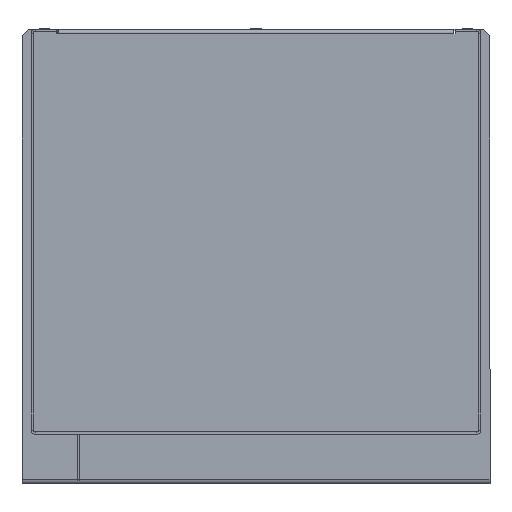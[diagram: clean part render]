
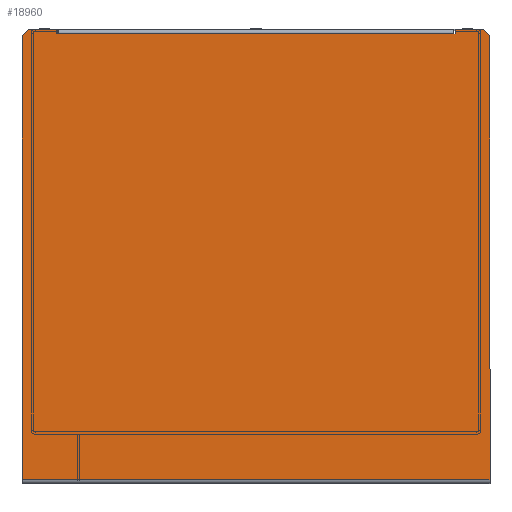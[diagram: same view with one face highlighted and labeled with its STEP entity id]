
A CAD part, front view. The second image highlights one B-rep face of the part: STEP entity #18960.
In plain terms, the highlighted planar face has unit normal (0, -1, 0).
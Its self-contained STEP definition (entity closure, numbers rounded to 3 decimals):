
#17675=CARTESIAN_POINT('',(134.227,-1076.247,-251.099));
#17676=VERTEX_POINT('',#17675);
#17846=CARTESIAN_POINT('',(654.227,-1076.247,-251.099));
#17847=VERTEX_POINT('',#17846);
#18066=CARTESIAN_POINT('',(134.227,-1076.247,-251.099));
#18067=DIRECTION('',(1.0,0.0,0.0));
#18068=VECTOR('',#18067,520.0);
#18069=LINE('',#18066,#18068);
#18070=EDGE_CURVE('',#17676,#17847,#18069,.T.);
#18119=CARTESIAN_POINT('',(614.227,-1076.247,244.901));
#18120=VERTEX_POINT('',#18119);
#18272=CARTESIAN_POINT('',(174.227,-1076.247,244.901));
#18273=VERTEX_POINT('',#18272);
#18398=CARTESIAN_POINT('',(614.227,-1076.247,244.901));
#18399=DIRECTION('',(-1.0,0.0,0.0));
#18400=VECTOR('',#18399,440.0);
#18401=LINE('',#18398,#18400);
#18402=EDGE_CURVE('',#18120,#18273,#18401,.T.);
#18413=CARTESIAN_POINT('',(172.227,-1076.247,249.401));
#18414=VERTEX_POINT('',#18413);
#18423=CARTESIAN_POINT('',(172.227,-1076.247,244.401));
#18424=VERTEX_POINT('',#18423);
#18425=CARTESIAN_POINT('',(172.227,-1076.247,249.401));
#18426=DIRECTION('',(0.0,0.0,-1.0));
#18427=VECTOR('',#18426,5.0);
#18428=LINE('',#18425,#18427);
#18429=EDGE_CURVE('',#18414,#18424,#18428,.T.);
#18454=CARTESIAN_POINT('',(174.227,-1076.247,244.401));
#18455=VERTEX_POINT('',#18454);
#18456=CARTESIAN_POINT('',(172.227,-1076.247,244.401));
#18457=DIRECTION('',(1.0,0.0,0.0));
#18458=VECTOR('',#18457,2.0);
#18459=LINE('',#18456,#18458);
#18460=EDGE_CURVE('',#18424,#18455,#18459,.T.);
#18491=CARTESIAN_POINT('',(174.227,-1076.247,244.901));
#18492=DIRECTION('',(0.0,0.0,-1.0));
#18493=VECTOR('',#18492,0.5);
#18494=LINE('',#18491,#18493);
#18495=EDGE_CURVE('',#18273,#18455,#18494,.T.);
#18516=CARTESIAN_POINT('',(616.227,-1076.247,244.401));
#18517=VERTEX_POINT('',#18516);
#18524=CARTESIAN_POINT('',(616.227,-1076.247,249.401));
#18525=VERTEX_POINT('',#18524);
#18526=CARTESIAN_POINT('',(616.227,-1076.247,249.401));
#18527=DIRECTION('',(0.0,0.0,-1.0));
#18528=VECTOR('',#18527,5.0);
#18529=LINE('',#18526,#18528);
#18530=EDGE_CURVE('',#18525,#18517,#18529,.T.);
#18555=CARTESIAN_POINT('',(614.227,-1076.247,244.401));
#18556=VERTEX_POINT('',#18555);
#18563=CARTESIAN_POINT('',(616.227,-1076.247,244.401));
#18564=DIRECTION('',(-1.0,0.0,0.0));
#18565=VECTOR('',#18564,2.0);
#18566=LINE('',#18563,#18565);
#18567=EDGE_CURVE('',#18517,#18556,#18566,.T.);
#18577=CARTESIAN_POINT('',(614.227,-1076.247,244.901));
#18578=DIRECTION('',(0.0,0.0,-1.0));
#18579=VECTOR('',#18578,0.5);
#18580=LINE('',#18577,#18579);
#18581=EDGE_CURVE('',#18120,#18556,#18580,.T.);
#18766=CARTESIAN_POINT('',(654.227,-1076.247,241.901));
#18767=VERTEX_POINT('',#18766);
#18784=CARTESIAN_POINT('',(646.727,-1076.247,249.401));
#18785=VERTEX_POINT('',#18784);
#18792=CARTESIAN_POINT('',(654.227,-1076.247,241.901));
#18793=DIRECTION('',(-0.707,0.0,0.707));
#18794=VECTOR('',#18793,10.607);
#18795=LINE('',#18792,#18794);
#18796=EDGE_CURVE('',#18767,#18785,#18795,.T.);
#18807=CARTESIAN_POINT('',(646.727,-1076.247,249.401));
#18808=DIRECTION('',(-1.0,0.0,0.0));
#18809=VECTOR('',#18808,30.5);
#18810=LINE('',#18807,#18809);
#18811=EDGE_CURVE('',#18785,#18525,#18810,.T.);
#18835=CARTESIAN_POINT('',(654.227,-1076.247,-251.099));
#18836=DIRECTION('',(0.0,0.0,1.0));
#18837=VECTOR('',#18836,493.);
#18838=LINE('',#18835,#18837);
#18839=EDGE_CURVE('',#17847,#18767,#18838,.T.);
#18903=CARTESIAN_POINT('',(134.227,-1076.247,241.901));
#18904=VERTEX_POINT('',#18903);
#18905=CARTESIAN_POINT('',(141.727,-1076.247,249.401));
#18906=VERTEX_POINT('',#18905);
#18907=CARTESIAN_POINT('',(134.227,-1076.247,241.901));
#18908=DIRECTION('',(0.707,0.0,0.707));
#18909=VECTOR('',#18908,10.607);
#18910=LINE('',#18907,#18909);
#18911=EDGE_CURVE('',#18904,#18906,#18910,.T.);
#18929=CARTESIAN_POINT('',(654.227,-1076.247,-255.599));
#18930=DIRECTION('',(0.0,-1.0,0.0));
#18931=DIRECTION('',(0.0,0.0,1.0));
#18932=AXIS2_PLACEMENT_3D('',#18929,#18930,#18931);
#18933=PLANE('',#18932);
#18934=CARTESIAN_POINT('',(172.227,-1076.247,249.401));
#18935=DIRECTION('',(-1.0,0.0,0.0));
#18936=VECTOR('',#18935,30.5);
#18937=LINE('',#18934,#18936);
#18938=EDGE_CURVE('',#18414,#18906,#18937,.T.);
#18939=ORIENTED_EDGE('',*,*,#18938,.T.);
#18940=ORIENTED_EDGE('',*,*,#18911,.F.);
#18941=CARTESIAN_POINT('',(134.227,-1076.247,-251.099));
#18942=DIRECTION('',(0.0,0.0,1.0));
#18943=VECTOR('',#18942,493.);
#18944=LINE('',#18941,#18943);
#18945=EDGE_CURVE('',#17676,#18904,#18944,.T.);
#18946=ORIENTED_EDGE('',*,*,#18945,.F.);
#18947=ORIENTED_EDGE('',*,*,#18070,.T.);
#18948=ORIENTED_EDGE('',*,*,#18839,.T.);
#18949=ORIENTED_EDGE('',*,*,#18796,.T.);
#18950=ORIENTED_EDGE('',*,*,#18811,.T.);
#18951=ORIENTED_EDGE('',*,*,#18530,.T.);
#18952=ORIENTED_EDGE('',*,*,#18567,.T.);
#18953=ORIENTED_EDGE('',*,*,#18581,.F.);
#18954=ORIENTED_EDGE('',*,*,#18402,.T.);
#18955=ORIENTED_EDGE('',*,*,#18495,.T.);
#18956=ORIENTED_EDGE('',*,*,#18460,.F.);
#18957=ORIENTED_EDGE('',*,*,#18429,.F.);
#18958=EDGE_LOOP('',(#18939,#18940,#18946,#18947,#18948,#18949,#18950,#18951,#18952,#18953,#18954,#18955,#18956,#18957));
#18959=FACE_OUTER_BOUND('',#18958,.T.);
#18960=ADVANCED_FACE('',(#18959),#18933,.T.);
